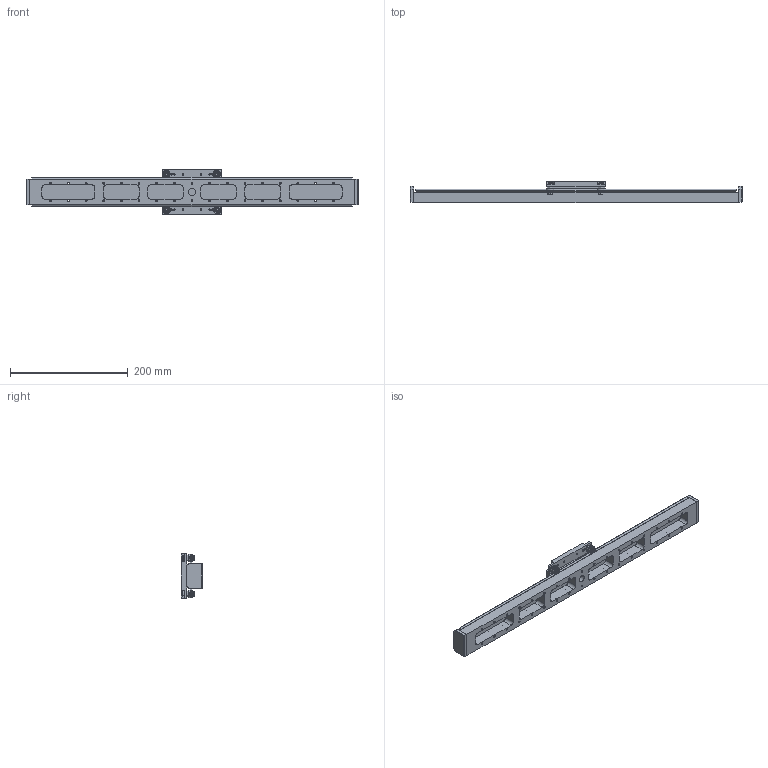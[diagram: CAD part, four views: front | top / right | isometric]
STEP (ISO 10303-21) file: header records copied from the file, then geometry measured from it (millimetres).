
FILE_DESCRIPTION (( 'STEP AP214' ), '1' );
FILE_NAME ('VSM23-P-450 - Simplified.STEP', '2024-06-21T09:14:06', ( '' ), ( '' ), 'SwSTEP 2.0', 'SolidWorks 2024', '' );
FILE_SCHEMA (( 'AUTOMOTIVE_DESIGN' ));
Length unit declared in the file: millimetre
Products named in the file (16): VSM23-X-450 V-slide_Simplified; Outer_Simplified; Concentric Bearing Assy_Simplified; P0301.040-A2_P0301.040-A2; Inner_Simplified; VSM23-P End Plate_Simplified; Eccentric Bearing Assy_Simplified; Concentric shaft_Simplified; VSM23-P Passive Carriage Assy_Simplified; M4 Washer; VSM23-P-450 Base plate_Simplified; VSM23-P-450 - Simplified; Eccentric shaft_Simplified; VSM23-P Passive Carriage_Simplified; Bearing_Simplified; Ball
Assembly tree (34 placements, depth 5):
  VSM23-P-450 - Simplified
    VSM23-P-450 Base plate_Simplified
    VSM23-X-450 V-slide_Simplified
    VSM23-P Passive Carriage Assy_Simplified
      VSM23-P Passive Carriage_Simplified
      Eccentric Bearing Assy_Simplified  x2
        Eccentric shaft_Simplified
        Bearing_Simplified
          Outer_Simplified
          Inner_Simplified
          Ball  x8
        P0301.040-A2_P0301.040-A2
      Concentric Bearing Assy_Simplified  x2
        Concentric shaft_Simplified
        Bearing_Simplified
          Outer_Simplified
          Inner_Simplified
          Ball  x8
        P0301.040-A2_P0301.040-A2
      M4 Washer  x2
      P0301.040-A2_P0301.040-A2  x4
    VSM23-P End Plate_Simplified  x2
Bounding box: 564 x 36 x 75 mm (x, y, z)
Volume: 458108.1 mm3; surface area: 170007.5 mm2
Topology: 99 solids, 99 shells, 1097 faces, 2763 edges, 1790 vertices
Faces by surface type: cylinder 491, plane 278, sphere 128, cone 120, torus 80
Entity records: 17910 total; most frequent: CARTESIAN_POINT 3249, DIRECTION 3199, ORIENTED_EDGE 2742, EDGE_CURVE 1371, AXIS2_PLACEMENT_3D 1306, VERTEX_POINT 900, EDGE_LOOP 801, CIRCLE 736
